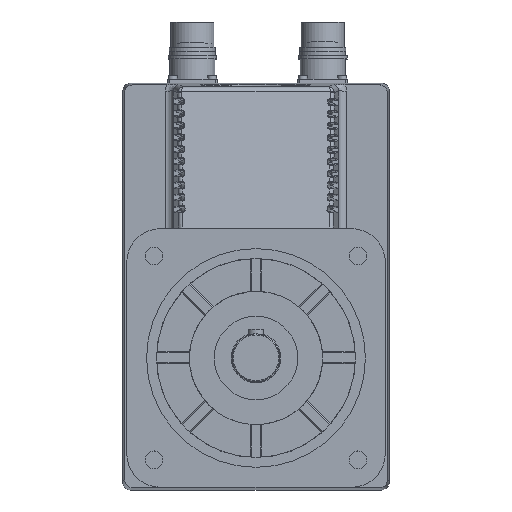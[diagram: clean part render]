
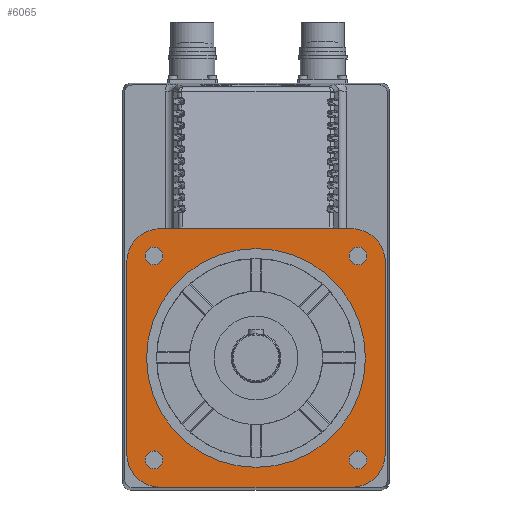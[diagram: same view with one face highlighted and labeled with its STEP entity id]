
A CAD part, top view. The second image highlights one B-rep face of the part: STEP entity #6065.
In plain terms, the highlighted planar face has unit normal (0, 0, 1).
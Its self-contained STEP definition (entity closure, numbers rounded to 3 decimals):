
#6065 = ADVANCED_FACE( '', ( #13894, #13895, #13896, #13897, #13898, #13899 ), #13900, .F. );
#13894 = FACE_OUTER_BOUND( '', #27801, .T. );
#13895 = FACE_BOUND( '', #27802, .T. );
#13896 = FACE_BOUND( '', #27803, .T. );
#13897 = FACE_BOUND( '', #27804, .T. );
#13898 = FACE_BOUND( '', #27805, .T. );
#13899 = FACE_BOUND( '', #27806, .T. );
#13900 = PLANE( '', #27807 );
#27801 = EDGE_LOOP( '', ( #47317, #47318, #47319, #47320, #47321, #47322, #47323, #47324 ) );
#27802 = EDGE_LOOP( '', ( #47325 ) );
#27803 = EDGE_LOOP( '', ( #47326 ) );
#27804 = EDGE_LOOP( '', ( #47327 ) );
#27805 = EDGE_LOOP( '', ( #47328 ) );
#27806 = EDGE_LOOP( '', ( #47329 ) );
#27807 = AXIS2_PLACEMENT_3D( '', #47330, #47331, #47332 );
#47317 = ORIENTED_EDGE( '', *, *, #59456, .F. );
#47318 = ORIENTED_EDGE( '', *, *, #62980, .F. );
#47319 = ORIENTED_EDGE( '', *, *, #62981, .F. );
#47320 = ORIENTED_EDGE( '', *, *, #62982, .F. );
#47321 = ORIENTED_EDGE( '', *, *, #62983, .F. );
#47322 = ORIENTED_EDGE( '', *, *, #62641, .F. );
#47323 = ORIENTED_EDGE( '', *, *, #62984, .F. );
#47324 = ORIENTED_EDGE( '', *, *, #62985, .F. );
#47325 = ORIENTED_EDGE( '', *, *, #58128, .T. );
#47326 = ORIENTED_EDGE( '', *, *, #59984, .T. );
#47327 = ORIENTED_EDGE( '', *, *, #60166, .T. );
#47328 = ORIENTED_EDGE( '', *, *, #60499, .T. );
#47329 = ORIENTED_EDGE( '', *, *, #58096, .T. );
#47330 = CARTESIAN_POINT( '', ( 112.279, 221.177, 223.5 ) );
#47331 = DIRECTION( '', ( 0., 0., -1. ) );
#47332 = DIRECTION( '', ( 0., -1., 0. ) );
#58096 = EDGE_CURVE( '', #65644, #65644, #65645, .T. );
#58128 = EDGE_CURVE( '', #65702, #65702, #65703, .T. );
#59456 = EDGE_CURVE( '', #67969, #67971, #67972, .T. );
#59984 = EDGE_CURVE( '', #68833, #68833, #68834, .T. );
#60166 = EDGE_CURVE( '', #69119, #69119, #69120, .T. );
#60499 = EDGE_CURVE( '', #69639, #69639, #69640, .T. );
#62641 = EDGE_CURVE( '', #72664, #72666, #72667, .T. );
#62980 = EDGE_CURVE( '', #73114, #67969, #73115, .T. );
#62981 = EDGE_CURVE( '', #73116, #73114, #73117, .T. );
#62982 = EDGE_CURVE( '', #73118, #73116, #73119, .T. );
#62983 = EDGE_CURVE( '', #72666, #73118, #73120, .T. );
#62984 = EDGE_CURVE( '', #73121, #72664, #73122, .T. );
#62985 = EDGE_CURVE( '', #67971, #73121, #73123, .T. );
#65644 = VERTEX_POINT( '', #76216 );
#65645 = CIRCLE( '', #76217, 4.5 );
#65702 = VERTEX_POINT( '', #76399 );
#65703 = CIRCLE( '', #76400, 55. );
#67969 = VERTEX_POINT( '', #80985 );
#67971 = VERTEX_POINT( '', #80988 );
#67972 = CIRCLE( '', #80989, 17. );
#68833 = VERTEX_POINT( '', #83353 );
#68834 = CIRCLE( '', #83354, 4.5 );
#69119 = VERTEX_POINT( '', #84200 );
#69120 = CIRCLE( '', #84201, 4.5 );
#69639 = VERTEX_POINT( '', #85273 );
#69640 = CIRCLE( '', #85274, 4.5 );
#72664 = VERTEX_POINT( '', #92629 );
#72666 = VERTEX_POINT( '', #92632 );
#72667 = LINE( '', #92633, #92634 );
#73114 = VERTEX_POINT( '', #94022 );
#73115 = LINE( '', #94023, #94024 );
#73116 = VERTEX_POINT( '', #94025 );
#73117 = CIRCLE( '', #94026, 17. );
#73118 = VERTEX_POINT( '', #94027 );
#73119 = LINE( '', #94028, #94029 );
#73120 = CIRCLE( '', #94030, 17. );
#73121 = VERTEX_POINT( '', #94031 );
#73122 = CIRCLE( '', #94032, 17. );
#73123 = LINE( '', #94033, #94034 );
#76216 = CARTESIAN_POINT( '', ( 109.006, 117.412, 223.5 ) );
#76217 = AXIS2_PLACEMENT_3D( '', #99889, #99890, #99891 );
#76399 = CARTESIAN_POINT( '', ( 160.272, 118.173, 223.5 ) );
#76400 = AXIS2_PLACEMENT_3D( '', #99926, #99927, #99928 );
#80985 = CARTESIAN_POINT( '', ( 95.279, 221.178, 223.5 ) );
#80988 = CARTESIAN_POINT( '', ( 112.28, 238.177, 223.5 ) );
#80989 = AXIS2_PLACEMENT_3D( '', #101772, #101773, #101774 );
#83353 = CARTESIAN_POINT( '', ( 109.014, 219.942, 223.5 ) );
#83354 = AXIS2_PLACEMENT_3D( '', #102456, #102457, #102458 );
#84200 = CARTESIAN_POINT( '', ( 211.544, 219.935, 223.5 ) );
#84201 = AXIS2_PLACEMENT_3D( '', #102700, #102701, #102702 );
#85273 = CARTESIAN_POINT( '', ( 211.537, 117.405, 223.5 ) );
#85274 = AXIS2_PLACEMENT_3D( '', #103148, #103149, #103150 );
#92629 = CARTESIAN_POINT( '', ( 225.279, 221.169, 223.5 ) );
#92632 = CARTESIAN_POINT( '', ( 225.272, 125.169, 223.5 ) );
#92633 = CARTESIAN_POINT( '', ( 225.279, 221.169, 223.5 ) );
#92634 = VECTOR( '', #105886, 1000. );
#94022 = CARTESIAN_POINT( '', ( 95.272, 125.178, 223.5 ) );
#94023 = CARTESIAN_POINT( '', ( 95.272, 125.178, 223.5 ) );
#94024 = VECTOR( '', #106254, 1000. );
#94025 = CARTESIAN_POINT( '', ( 112.271, 108.177, 223.5 ) );
#94026 = AXIS2_PLACEMENT_3D( '', #106255, #106256, #106257 );
#94027 = CARTESIAN_POINT( '', ( 208.271, 108.17, 223.5 ) );
#94028 = CARTESIAN_POINT( '', ( 208.271, 108.17, 223.5 ) );
#94029 = VECTOR( '', #106258, 1000. );
#94030 = AXIS2_PLACEMENT_3D( '', #106259, #106260, #106261 );
#94031 = CARTESIAN_POINT( '', ( 208.28, 238.17, 223.5 ) );
#94032 = AXIS2_PLACEMENT_3D( '', #106262, #106263, #106264 );
#94033 = CARTESIAN_POINT( '', ( 112.28, 238.177, 223.5 ) );
#94034 = VECTOR( '', #106265, 1000. );
#99889 = CARTESIAN_POINT( '', ( 109.007, 121.912, 223.5 ) );
#99890 = DIRECTION( '', ( 0., 0., -1. ) );
#99891 = DIRECTION( '', ( 0., -1., 0. ) );
#99926 = CARTESIAN_POINT( '', ( 160.276, 173.173, 223.5 ) );
#99927 = DIRECTION( '', ( 0., 0., -1. ) );
#99928 = DIRECTION( '', ( 0., -1., 0. ) );
#101772 = CARTESIAN_POINT( '', ( 112.279, 221.177, 223.5 ) );
#101773 = DIRECTION( '', ( 0., 0., -1. ) );
#101774 = DIRECTION( '', ( 0., -1., 0. ) );
#102456 = CARTESIAN_POINT( '', ( 109.014, 224.442, 223.5 ) );
#102457 = DIRECTION( '', ( 0., 0., -1. ) );
#102458 = DIRECTION( '', ( 0., -1., 0. ) );
#102700 = CARTESIAN_POINT( '', ( 211.544, 224.435, 223.5 ) );
#102701 = DIRECTION( '', ( 0., 0., -1. ) );
#102702 = DIRECTION( '', ( 0., -1., 0. ) );
#103148 = CARTESIAN_POINT( '', ( 211.537, 121.905, 223.5 ) );
#103149 = DIRECTION( '', ( 0., 0., -1. ) );
#103150 = DIRECTION( '', ( 0., -1., 0. ) );
#105886 = DIRECTION( '', ( 0., -1., 0. ) );
#106254 = DIRECTION( '', ( 0., 1., 0. ) );
#106255 = CARTESIAN_POINT( '', ( 112.272, 125.177, 223.5 ) );
#106256 = DIRECTION( '', ( 0., 0., -1. ) );
#106257 = DIRECTION( '', ( 0., 1., 0. ) );
#106258 = DIRECTION( '', ( -1., 0., 0. ) );
#106259 = CARTESIAN_POINT( '', ( 208.272, 125.17, 223.5 ) );
#106260 = DIRECTION( '', ( 0., 0., -1. ) );
#106261 = DIRECTION( '', ( 0., 1., 0. ) );
#106262 = CARTESIAN_POINT( '', ( 208.279, 221.17, 223.5 ) );
#106263 = DIRECTION( '', ( 0., 0., -1. ) );
#106264 = DIRECTION( '', ( 0., -1., 0. ) );
#106265 = DIRECTION( '', ( 1., 0., 0. ) );
